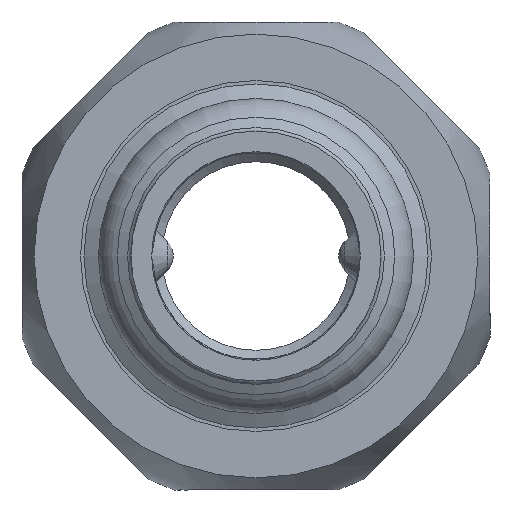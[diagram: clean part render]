
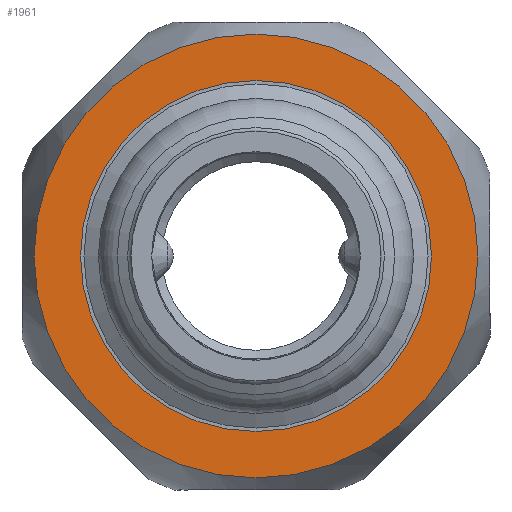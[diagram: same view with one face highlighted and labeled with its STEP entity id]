
A CAD part, left-side view. The second image highlights one B-rep face of the part: STEP entity #1961.
In plain terms, the highlighted planar face has unit normal (-1, 0, 0) as drawn and (0, 0, -1) by its records, which use the part's own axes.
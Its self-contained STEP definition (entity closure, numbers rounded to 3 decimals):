
#1805=CARTESIAN_POINT('',(16.125,0.0,0.0));
#1806=VERTEX_POINT('',#1805);
#1807=CARTESIAN_POINT('',(0.,0.0,0.0));
#1808=DIRECTION('',(0.0,0.0,-1.0));
#1809=DIRECTION('',(0.0,-1.0,0.0));
#1810=AXIS2_PLACEMENT_3D('',#1807,#1808,#1809);
#1811=CIRCLE('',#1810,16.125);
#1812=EDGE_CURVE('',#1806,#1806,#1811,.T.);
#1854=CARTESIAN_POINT('',(-12.75,0.0,0.0));
#1855=VERTEX_POINT('',#1854);
#1856=CARTESIAN_POINT('',(0.0,0.0,0.0));
#1857=DIRECTION('',(0.0,0.0,1.0));
#1858=DIRECTION('',(-1.0,0.0,0.0));
#1859=AXIS2_PLACEMENT_3D('',#1856,#1857,#1858);
#1860=CIRCLE('',#1859,12.75);
#1861=EDGE_CURVE('',#1855,#1855,#1860,.T.);
#1950=CARTESIAN_POINT('',(0.,0.,0.0));
#1951=DIRECTION('',(0.0,0.0,1.0));
#1952=DIRECTION('',(1.0,0.0,0.0));
#1953=AXIS2_PLACEMENT_3D('',#1950,#1951,#1952);
#1954=PLANE('',#1953);
#1955=ORIENTED_EDGE('',*,*,#1812,.T.);
#1956=EDGE_LOOP('',(#1955));
#1957=FACE_OUTER_BOUND('',#1956,.T.);
#1958=ORIENTED_EDGE('',*,*,#1861,.T.);
#1959=EDGE_LOOP('',(#1958));
#1960=FACE_BOUND('',#1959,.T.);
#1961=ADVANCED_FACE('',(#1957,#1960),#1954,.F.);
